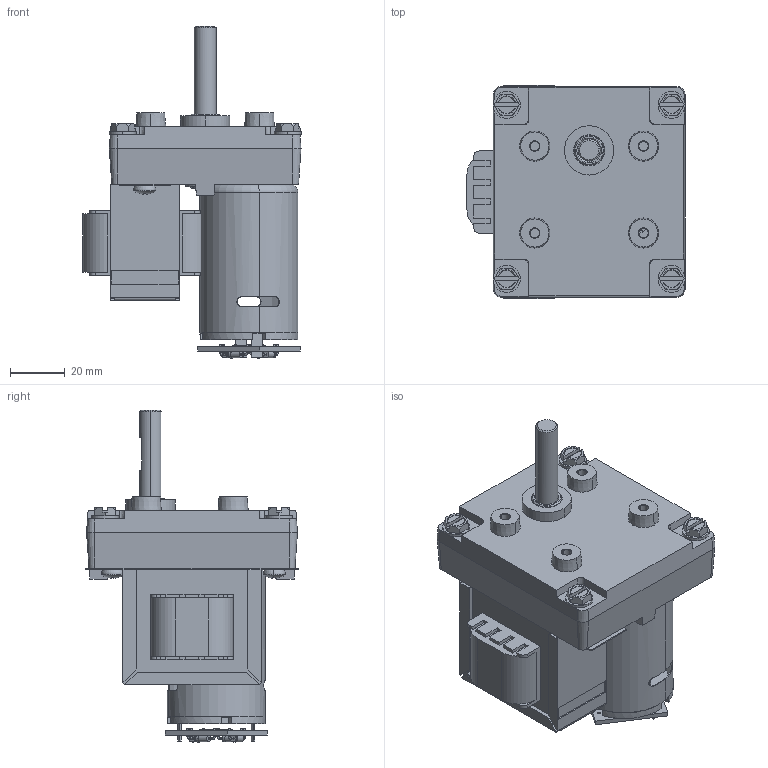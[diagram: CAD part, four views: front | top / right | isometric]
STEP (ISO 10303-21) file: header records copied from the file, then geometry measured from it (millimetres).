
FILE_DESCRIPTION (( 'STEP AP203' ), '1' );
FILE_NAME ('CJ-011-MR 710-106-TR.STEP', '2018-11-08T17:31:04', ( '' ), ( '' ), 'SwSTEP 2.0', 'SolidWorks 2018', '' );
FILE_SCHEMA (( 'CONFIG_CONTROL_DESIGN' ));
Length unit declared in the file: millimetre
Products named in the file (2): CJ-011-MR 710-106-TR
Bounding box: 79.7 x 78 x 121.2 mm (x, y, z)
Surface area: 69337.4 mm2 (no closed solid volume)
Topology: 0 solids, 43 shells, 707 faces, 2746 edges, 2067 vertices
Faces by surface type: plane 401, cylinder 170, cone 96, torus 34, bspline 6
Entity records: 32804 total; most frequent: CARTESIAN_POINT 9468, ORIENTED_EDGE 4610, DIRECTION 4565, EDGE_CURVE 2744, VERTEX_POINT 2063, LINE 1573, VECTOR 1573, AXIS2_PLACEMENT_3D 1496
